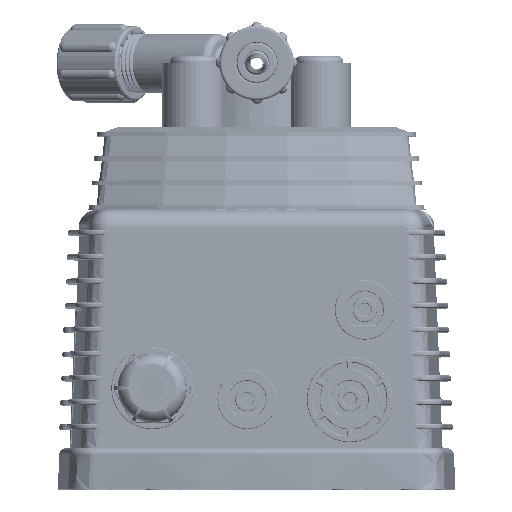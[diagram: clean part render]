
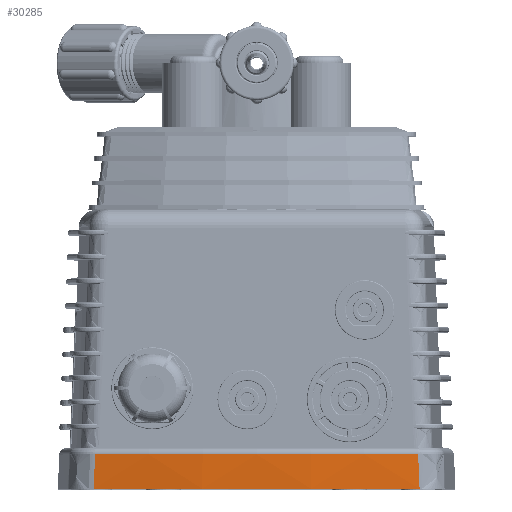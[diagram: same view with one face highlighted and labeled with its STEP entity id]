
A CAD part, top view. The second image highlights one B-rep face of the part: STEP entity #30285.
In plain terms, the highlighted conical face has half-angle 0.001 degrees and reference radius 320.781 mm.
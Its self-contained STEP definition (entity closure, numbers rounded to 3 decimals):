
#1038 = CARTESIAN_POINT ( 'NONE',  ( 0., 9.2, -225.781 ) ) ;
#1737 = AXIS2_PLACEMENT_3D ( 'NONE', #1038, #129546, #19448 ) ;
#4348 = CARTESIAN_POINT ( 'NONE',  ( 43.403, 7.58, 92.05 ) ) ;
#5007 = CARTESIAN_POINT ( 'NONE',  ( -43.717, 0., 92.007 ) ) ;
#13113 = AXIS2_PLACEMENT_3D ( 'NONE', #115391, #86014, #67496 ) ;
#15258 = CARTESIAN_POINT ( 'NONE',  ( -43.597, 2.893, 92.023 ) ) ;
#18848 = CARTESIAN_POINT ( 'NONE',  ( -43.335, 9.2, 92.059 ) ) ;
#19448 = DIRECTION ( 'NONE',  ( 0., 0., 1. ) ) ;
#30285 = ADVANCED_FACE ( 'NONE', ( #188907 ), #85319, .T. ) ;
#33678 = CARTESIAN_POINT ( 'NONE',  ( -43.717, 0., 92.007 ) ) ;
#44341 = ORIENTED_EDGE ( 'NONE', *, *, #72939, .F. ) ;
#55292 = CARTESIAN_POINT ( 'NONE',  ( 43.335, 9.2, 92.059 ) ) ;
#56749 = ORIENTED_EDGE ( 'NONE', *, *, #219667, .T. ) ;
#65174 = ORIENTED_EDGE ( 'NONE', *, *, #151914, .T. ) ;
#67458 = AXIS2_PLACEMENT_3D ( 'NONE', #203322, #93220, #221823 ) ;
#67496 = DIRECTION ( 'NONE',  ( 0., 0., -1. ) ) ;
#69787 = CARTESIAN_POINT ( 'NONE',  ( -43.403, 7.58, 92.05 ) ) ;
#72939 = EDGE_CURVE ( 'NONE', #188480, #76856, #94814, .T. ) ;
#74240 = CARTESIAN_POINT ( 'NONE',  ( 43.717, 0., 92.007 ) ) ;
#74385 = B_SPLINE_CURVE_WITH_KNOTS ( 'NONE', 3,
 ( #187513, #205957, #95891, #224485, #114397, #4348, #132881 ),
 .UNSPECIFIED., .F., .F.,
 ( 4, 3, 4 ),
 ( 0., 0.004, 0.009 ),
 .UNSPECIFIED. ) ;
#75556 = CARTESIAN_POINT ( 'NONE',  ( 0., 0., -225.781 ) ) ;
#76856 = VERTEX_POINT ( 'NONE', #55292 ) ;
#85319 = CONICAL_SURFACE ( 'NONE', #13113, 320.781, 0. ) ;
#86014 = DIRECTION ( 'NONE',  ( 0., -1., 0. ) ) ;
#89776 = EDGE_CURVE ( 'NONE', #109951, #116382, #94150, .T. ) ;
#93220 = DIRECTION ( 'NONE',  ( 0., 1., 0. ) ) ;
#94111 = DIRECTION ( 'NONE',  ( 0., 0., 1. ) ) ;
#94150 = B_SPLINE_CURVE_WITH_KNOTS ( 'NONE', 3,
 ( #198452, #69787, #235423, #125360, #15258, #143813, #33678 ),
 .UNSPECIFIED., .F., .F.,
 ( 4, 3, 4 ),
 ( 0., 0.005, 0.009 ),
 .UNSPECIFIED. ) ;
#94814 = CIRCLE ( 'NONE', #67458, 320.781 ) ;
#95891 = CARTESIAN_POINT ( 'NONE',  ( 43.597, 2.893, 92.023 ) ) ;
#109951 = VERTEX_POINT ( 'NONE', #18848 ) ;
#114397 = CARTESIAN_POINT ( 'NONE',  ( 43.47, 5.96, 92.041 ) ) ;
#115391 = CARTESIAN_POINT ( 'NONE',  ( 0., 9.2, -225.781 ) ) ;
#116382 = VERTEX_POINT ( 'NONE', #5007 ) ;
#124283 = CIRCLE ( 'NONE', #1737, 320.781 ) ;
#125360 = CARTESIAN_POINT ( 'NONE',  ( -43.537, 4.34, 92.032 ) ) ;
#129546 = DIRECTION ( 'NONE',  ( 0., 1., 0. ) ) ;
#132881 = CARTESIAN_POINT ( 'NONE',  ( 43.335, 9.2, 92.059 ) ) ;
#143813 = CARTESIAN_POINT ( 'NONE',  ( -43.657, 1.447, 92.015 ) ) ;
#146106 = AXIS2_PLACEMENT_3D ( 'NONE', #75556, #204204, #94111 ) ;
#151914 = EDGE_CURVE ( 'NONE', #197935, #76856, #74385, .T. ) ;
#159355 = CARTESIAN_POINT ( 'NONE',  ( 0., 9.2, 95. ) ) ;
#159525 = CIRCLE ( 'NONE', #146106, 320.781 ) ;
#177739 = ORIENTED_EDGE ( 'NONE', *, *, #192440, .F. ) ;
#187513 = CARTESIAN_POINT ( 'NONE',  ( 43.717, 0., 92.007 ) ) ;
#188480 = VERTEX_POINT ( 'NONE', #159355 ) ;
#188907 = FACE_OUTER_BOUND ( 'NONE', #221010, .T. ) ;
#192440 = EDGE_CURVE ( 'NONE', #109951, #188480, #124283, .T. ) ;
#192720 = ORIENTED_EDGE ( 'NONE', *, *, #89776, .T. ) ;
#197935 = VERTEX_POINT ( 'NONE', #74240 ) ;
#198452 = CARTESIAN_POINT ( 'NONE',  ( -43.335, 9.2, 92.059 ) ) ;
#203322 = CARTESIAN_POINT ( 'NONE',  ( 0., 9.2, -225.781 ) ) ;
#204204 = DIRECTION ( 'NONE',  ( 0., 1., 0. ) ) ;
#205957 = CARTESIAN_POINT ( 'NONE',  ( 43.657, 1.447, 92.015 ) ) ;
#219667 = EDGE_CURVE ( 'NONE', #116382, #197935, #159525, .T. ) ;
#221010 = EDGE_LOOP ( 'NONE', ( #56749, #65174, #44341, #177739, #192720 ) ) ;
#221823 = DIRECTION ( 'NONE',  ( 0., 0., 1. ) ) ;
#224485 = CARTESIAN_POINT ( 'NONE',  ( 43.537, 4.34, 92.032 ) ) ;
#235423 = CARTESIAN_POINT ( 'NONE',  ( -43.47, 5.96, 92.041 ) ) ;
